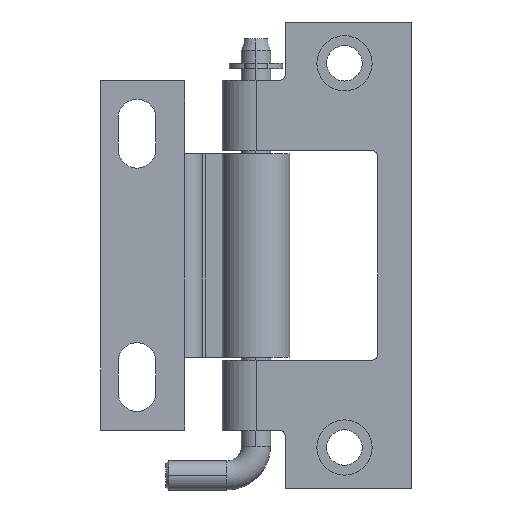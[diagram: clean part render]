
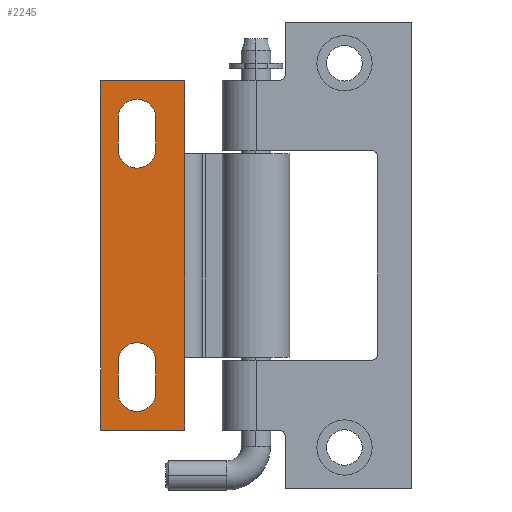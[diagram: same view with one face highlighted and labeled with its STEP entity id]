
A CAD part, front view. The second image highlights one B-rep face of the part: STEP entity #2245.
In plain terms, the highlighted planar face has unit normal (0, -1, 0).
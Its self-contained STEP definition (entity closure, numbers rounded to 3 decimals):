
#17 = CARTESIAN_POINT ( 'NONE',  ( 23.7, -14.2, 53.55 ) ) ;
#49 = CARTESIAN_POINT ( 'NONE',  ( 26.7, -14.2, 0. ) ) ;
#118 = LINE ( 'NONE', #1421, #2679 ) ;
#132 = EDGE_CURVE ( 'NONE', #4117, #2528, #2254, .T. ) ;
#133 = VERTEX_POINT ( 'NONE', #1527 ) ;
#135 = DIRECTION ( 'NONE',  ( 0., 0., 1. ) ) ;
#136 = DIRECTION ( 'NONE',  ( 0., 0., 1. ) ) ;
#158 = DIRECTION ( 'NONE',  ( 0., 1., 0. ) ) ;
#168 = DIRECTION ( 'NONE',  ( -1., 0., 0. ) ) ;
#195 = DIRECTION ( 'NONE',  ( 0., 0., -1. ) ) ;
#241 = CIRCLE ( 'NONE', #3643, 3.25 ) ;
#251 = EDGE_CURVE ( 'NONE', #4183, #2636, #1847, .T. ) ;
#297 = EDGE_CURVE ( 'NONE', #565, #4183, #241, .T. ) ;
#317 = DIRECTION ( 'NONE',  ( 0., 0., 1. ) ) ;
#344 = VECTOR ( 'NONE', #168, 1000. ) ;
#361 = FACE_BOUND ( 'NONE', #1154, .T. ) ;
#388 = DIRECTION ( 'NONE',  ( 1., 0., 0. ) ) ;
#404 = VECTOR ( 'NONE', #2231, 1000. ) ;
#406 = ORIENTED_EDGE ( 'NONE', *, *, #4242, .T. ) ;
#446 = LINE ( 'NONE', #2086, #4128 ) ;
#461 = DIRECTION ( 'NONE',  ( 0., 0., -1. ) ) ;
#482 = EDGE_CURVE ( 'NONE', #1915, #3005, #118, .T. ) ;
#502 = AXIS2_PLACEMENT_3D ( 'NONE', #3565, #577, #1971 ) ;
#556 = EDGE_CURVE ( 'NONE', #689, #2101, #1174, .T. ) ;
#565 = VERTEX_POINT ( 'NONE', #2140 ) ;
#577 = DIRECTION ( 'NONE',  ( 0., 1., 0. ) ) ;
#588 = VECTOR ( 'NONE', #317, 1000. ) ;
#643 = ORIENTED_EDGE ( 'NONE', *, *, #2092, .T. ) ;
#647 = EDGE_CURVE ( 'NONE', #4022, #2082, #3362, .T. ) ;
#678 = CARTESIAN_POINT ( 'NONE',  ( 17.2, -14.2, 11.75 ) ) ;
#689 = VERTEX_POINT ( 'NONE', #3104 ) ;
#700 = CARTESIAN_POINT ( 'NONE',  ( 23.7, -14.2, 6.45 ) ) ;
#781 = CARTESIAN_POINT ( 'NONE',  ( 20.45, -14.2, 48.25 ) ) ;
#793 = LINE ( 'NONE', #2154, #2521 ) ;
#819 = CARTESIAN_POINT ( 'NONE',  ( 17.2, -14.2, 53.55 ) ) ;
#886 = EDGE_CURVE ( 'NONE', #2101, #2924, #3179, .T. ) ;
#892 = DIRECTION ( 'NONE',  ( 0., 0., 1. ) ) ;
#894 = ORIENTED_EDGE ( 'NONE', *, *, #3455, .T. ) ;
#972 = CARTESIAN_POINT ( 'NONE',  ( 12.2, -14.2, 0. ) ) ;
#1029 = ORIENTED_EDGE ( 'NONE', *, *, #1229, .T. ) ;
#1034 = CARTESIAN_POINT ( 'NONE',  ( 12.2, -14.2, 60. ) ) ;
#1045 = FACE_BOUND ( 'NONE', #3067, .T. ) ;
#1066 = CARTESIAN_POINT ( 'NONE',  ( 11.7, -14.2, 60. ) ) ;
#1088 = DIRECTION ( 'NONE',  ( 0., 0., -1. ) ) ;
#1151 = CARTESIAN_POINT ( 'NONE',  ( 23.7, -14.2, 11.75 ) ) ;
#1154 = EDGE_LOOP ( 'NONE', ( #894, #2774, #2959, #3255, #3353 ) ) ;
#1174 = LINE ( 'NONE', #2217, #2401 ) ;
#1188 = CARTESIAN_POINT ( 'NONE',  ( 12.2, -14.2, 12.5 ) ) ;
#1217 = CARTESIAN_POINT ( 'NONE',  ( 20.45, -14.2, 53.55 ) ) ;
#1229 = EDGE_CURVE ( 'NONE', #133, #689, #4041, .T. ) ;
#1308 = AXIS2_PLACEMENT_3D ( 'NONE', #1066, #3305, #388 ) ;
#1397 = VERTEX_POINT ( 'NONE', #1515 ) ;
#1404 = EDGE_CURVE ( 'NONE', #3005, #2924, #3873, .T. ) ;
#1412 = ORIENTED_EDGE ( 'NONE', *, *, #1404, .F. ) ;
#1421 = CARTESIAN_POINT ( 'NONE',  ( 26.7, -14.2, 60. ) ) ;
#1445 = CARTESIAN_POINT ( 'NONE',  ( 17.2, -14.2, 53.55 ) ) ;
#1511 = CARTESIAN_POINT ( 'NONE',  ( 23.7, -14.2, 11.75 ) ) ;
#1515 = CARTESIAN_POINT ( 'NONE',  ( 17.2, -14.2, 6.45 ) ) ;
#1527 = CARTESIAN_POINT ( 'NONE',  ( 12.2, -14.2, 60. ) ) ;
#1534 = ORIENTED_EDGE ( 'NONE', *, *, #482, .F. ) ;
#1615 = CARTESIAN_POINT ( 'NONE',  ( 20.45, -14.2, 11.75 ) ) ;
#1760 = DIRECTION ( 'NONE',  ( -1., 0., 0. ) ) ;
#1792 = CIRCLE ( 'NONE', #2824, 3.25 ) ;
#1847 = LINE ( 'NONE', #1511, #3794 ) ;
#1915 = VERTEX_POINT ( 'NONE', #2160 ) ;
#1970 = DIRECTION ( 'NONE',  ( 0., 1., 0. ) ) ;
#1971 = DIRECTION ( 'NONE',  ( 0., 0., 1. ) ) ;
#1993 = DIRECTION ( 'NONE',  ( 0., 0., 1. ) ) ;
#2082 = VERTEX_POINT ( 'NONE', #17 ) ;
#2086 = CARTESIAN_POINT ( 'NONE',  ( 11.7, -14.2, 60. ) ) ;
#2087 = LINE ( 'NONE', #819, #4146 ) ;
#2092 = EDGE_CURVE ( 'NONE', #2636, #1397, #2998, .T. ) ;
#2101 = VERTEX_POINT ( 'NONE', #3297 ) ;
#2120 = DIRECTION ( 'NONE',  ( 0., 1., 0. ) ) ;
#2140 = CARTESIAN_POINT ( 'NONE',  ( 20.45, -14.2, 15. ) ) ;
#2154 = CARTESIAN_POINT ( 'NONE',  ( 23.7, -14.2, 53.55 ) ) ;
#2160 = CARTESIAN_POINT ( 'NONE',  ( 26.7, -14.2, 60. ) ) ;
#2216 = VERTEX_POINT ( 'NONE', #1445 ) ;
#2217 = CARTESIAN_POINT ( 'NONE',  ( 12.2, -14.2, 60. ) ) ;
#2225 = EDGE_LOOP ( 'NONE', ( #1412, #1534, #2952, #1029, #4133, #2297 ) ) ;
#2231 = DIRECTION ( 'NONE',  ( 0., 0., -1. ) ) ;
#2245 = ADVANCED_FACE ( 'NONE', ( #361, #1045, #3002 ), #3990, .T. ) ;
#2250 = CIRCLE ( 'NONE', #502, 3.25 ) ;
#2254 = CIRCLE ( 'NONE', #4265, 3.25 ) ;
#2281 = LINE ( 'NONE', #678, #588 ) ;
#2284 = VERTEX_POINT ( 'NONE', #4051 ) ;
#2297 = ORIENTED_EDGE ( 'NONE', *, *, #886, .T. ) ;
#2401 = VECTOR ( 'NONE', #195, 1000. ) ;
#2475 = DIRECTION ( 'NONE',  ( 0., 0., -1. ) ) ;
#2521 = VECTOR ( 'NONE', #2475, 1000. ) ;
#2522 = DIRECTION ( 'NONE',  ( 0., 0., 1. ) ) ;
#2528 = VERTEX_POINT ( 'NONE', #4240 ) ;
#2600 = CARTESIAN_POINT ( 'NONE',  ( 20.45, -14.2, 6.45 ) ) ;
#2636 = VERTEX_POINT ( 'NONE', #700 ) ;
#2679 = VECTOR ( 'NONE', #1088, 1000. ) ;
#2774 = ORIENTED_EDGE ( 'NONE', *, *, #647, .T. ) ;
#2801 = CARTESIAN_POINT ( 'NONE',  ( 20.45, -14.2, 11.75 ) ) ;
#2824 = AXIS2_PLACEMENT_3D ( 'NONE', #2801, #158, #136 ) ;
#2857 = AXIS2_PLACEMENT_3D ( 'NONE', #2600, #3267, #3664 ) ;
#2924 = VERTEX_POINT ( 'NONE', #972 ) ;
#2929 = ORIENTED_EDGE ( 'NONE', *, *, #297, .T. ) ;
#2952 = ORIENTED_EDGE ( 'NONE', *, *, #3796, .T. ) ;
#2959 = ORIENTED_EDGE ( 'NONE', *, *, #3146, .T. ) ;
#2998 = CIRCLE ( 'NONE', #2857, 3.25 ) ;
#3002 = FACE_OUTER_BOUND ( 'NONE', #2225, .T. ) ;
#3005 = VERTEX_POINT ( 'NONE', #49 ) ;
#3051 = EDGE_CURVE ( 'NONE', #2528, #2216, #2087, .T. ) ;
#3067 = EDGE_LOOP ( 'NONE', ( #4093, #2929, #3068, #643, #406 ) ) ;
#3068 = ORIENTED_EDGE ( 'NONE', *, *, #251, .T. ) ;
#3104 = CARTESIAN_POINT ( 'NONE',  ( 12.2, -14.2, 47.5 ) ) ;
#3139 = CARTESIAN_POINT ( 'NONE',  ( 11.7, -14.2, 0. ) ) ;
#3146 = EDGE_CURVE ( 'NONE', #2082, #4117, #793, .T. ) ;
#3179 = LINE ( 'NONE', #1188, #404 ) ;
#3255 = ORIENTED_EDGE ( 'NONE', *, *, #132, .T. ) ;
#3267 = DIRECTION ( 'NONE',  ( 0., 1., 0. ) ) ;
#3297 = CARTESIAN_POINT ( 'NONE',  ( 12.2, -14.2, 12.5 ) ) ;
#3305 = DIRECTION ( 'NONE',  ( 0., -1., 0. ) ) ;
#3353 = ORIENTED_EDGE ( 'NONE', *, *, #3051, .T. ) ;
#3362 = CIRCLE ( 'NONE', #4074, 3.25 ) ;
#3455 = EDGE_CURVE ( 'NONE', #2216, #4022, #2250, .T. ) ;
#3524 = CARTESIAN_POINT ( 'NONE',  ( 20.45, -14.2, 56.8 ) ) ;
#3565 = CARTESIAN_POINT ( 'NONE',  ( 20.45, -14.2, 53.55 ) ) ;
#3643 = AXIS2_PLACEMENT_3D ( 'NONE', #1615, #1970, #1993 ) ;
#3664 = DIRECTION ( 'NONE',  ( 0., 0., 1. ) ) ;
#3680 = VECTOR ( 'NONE', #461, 1000. ) ;
#3794 = VECTOR ( 'NONE', #4200, 1000. ) ;
#3796 = EDGE_CURVE ( 'NONE', #1915, #133, #446, .T. ) ;
#3838 = DIRECTION ( 'NONE',  ( 0., 1., 0. ) ) ;
#3846 = CARTESIAN_POINT ( 'NONE',  ( 23.7, -14.2, 48.25 ) ) ;
#3873 = LINE ( 'NONE', #3139, #344 ) ;
#3990 = PLANE ( 'NONE',  #1308 ) ;
#4022 = VERTEX_POINT ( 'NONE', #3524 ) ;
#4041 = LINE ( 'NONE', #1034, #3680 ) ;
#4051 = CARTESIAN_POINT ( 'NONE',  ( 17.2, -14.2, 11.75 ) ) ;
#4074 = AXIS2_PLACEMENT_3D ( 'NONE', #1217, #3838, #2522 ) ;
#4093 = ORIENTED_EDGE ( 'NONE', *, *, #4161, .T. ) ;
#4117 = VERTEX_POINT ( 'NONE', #3846 ) ;
#4128 = VECTOR ( 'NONE', #1760, 1000. ) ;
#4133 = ORIENTED_EDGE ( 'NONE', *, *, #556, .T. ) ;
#4146 = VECTOR ( 'NONE', #135, 1000. ) ;
#4161 = EDGE_CURVE ( 'NONE', #2284, #565, #1792, .T. ) ;
#4183 = VERTEX_POINT ( 'NONE', #1151 ) ;
#4200 = DIRECTION ( 'NONE',  ( 0., 0., -1. ) ) ;
#4240 = CARTESIAN_POINT ( 'NONE',  ( 17.2, -14.2, 48.25 ) ) ;
#4242 = EDGE_CURVE ( 'NONE', #1397, #2284, #2281, .T. ) ;
#4265 = AXIS2_PLACEMENT_3D ( 'NONE', #781, #2120, #892 ) ;
